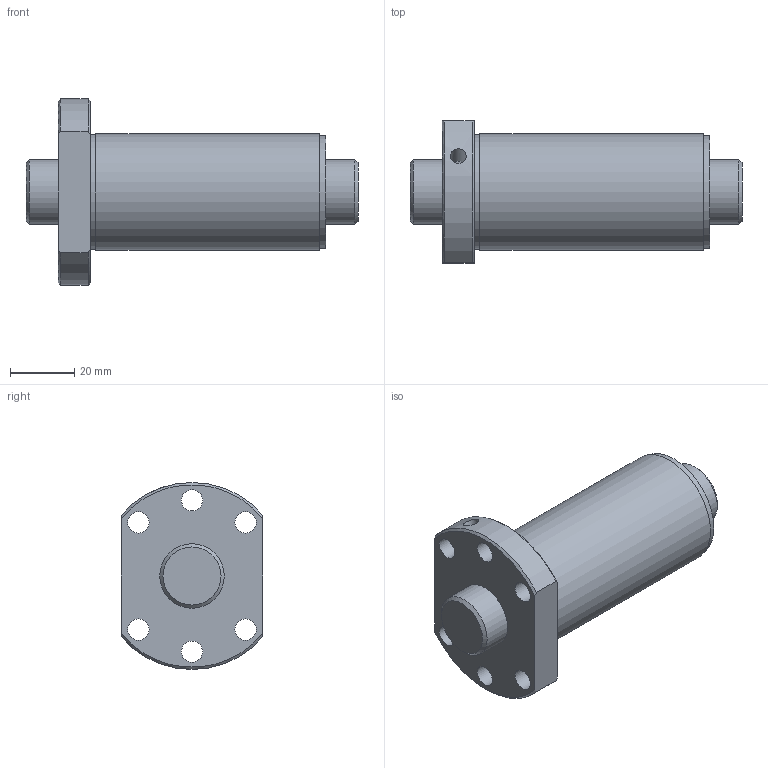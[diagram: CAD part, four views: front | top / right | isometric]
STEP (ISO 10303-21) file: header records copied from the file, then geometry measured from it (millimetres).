
FILE_DESCRIPTION(/* description */ ('STEP AP203'),/* implementation_level */ '2;1');
FILE_NAME(/* name */ 'SDA2040V-2G0+103LC0(0G000)',/* time_stamp */ '2024-05-28T11:30:22+02:00',/* author */ ('License CC BY-ND 4.0'),/* organization */ ('CADENAS'),/* preprocessor_version */ 'ST-DEVELOPER v19.3',/* originating_system */ 'PARTsolutions',/* authorisation */ ' ');
FILE_SCHEMA (('CONFIG_CONTROL_DESIGN'));
Length unit declared in the file: millimetre
Products named in the file (3): SDA2040V-2G0+103LC0(0G000); 000SDA2040V-20Shaft; SDA-V serieSDA2040V-2nut
Assembly tree (2 placements, depth 2):
  SDA2040V-2G0+103LC0(0G000)
    000SDA2040V-20Shaft
    SDA-V serieSDA2040V-2nut
Bounding box: 103 x 44 x 58 mm (x, y, z)
Volume: 100776.4 mm3; surface area: 27205.2 mm2
Topology: 2 solids, 2 shells, 31 faces, 74 edges, 50 vertices
Faces by surface type: cylinder 15, plane 9, cone 7
Full cylindrical faces by diameter (mm): 3.9 x1, 4.917 x1, 6.6 x6, 20 x2, 35 x1, 35.6 x1, 36 x1
Entity records: 915 total; most frequent: CARTESIAN_POINT 174, DIRECTION 144, ORIENTED_EDGE 104, AXIS2_PLACEMENT_3D 68, EDGE_LOOP 66, FACE_BOUND 66, EDGE_CURVE 52, VERTEX_POINT 44
